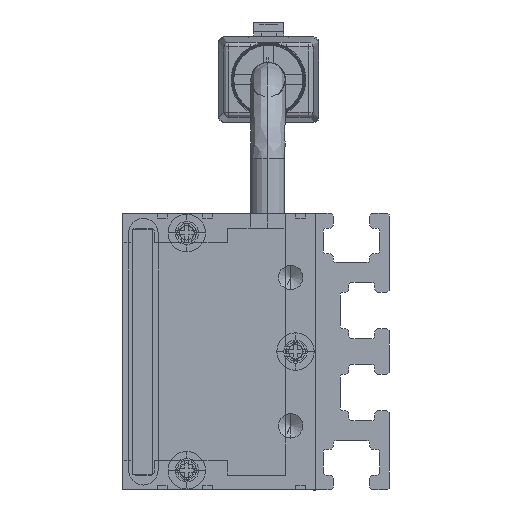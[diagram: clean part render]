
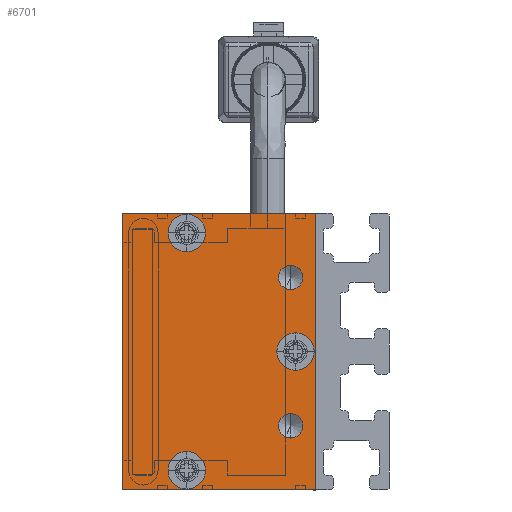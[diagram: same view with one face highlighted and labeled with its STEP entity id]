
A CAD part, left-side view. The second image highlights one B-rep face of the part: STEP entity #6701.
In plain terms, the highlighted planar face has unit normal (-1, 0, 0) as drawn and (0, 0, -1) by its records, which use the part's own axes.
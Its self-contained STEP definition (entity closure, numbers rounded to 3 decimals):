
#73 = EDGE_CURVE ( 'NONE', #7265, #3830, #9584, .T. ) ;
#92 = AXIS2_PLACEMENT_3D ( 'NONE', #843, #7435, #5180 ) ;
#105 = VERTEX_POINT ( 'NONE', #12009 ) ;
#285 = DIRECTION ( 'NONE',  ( -1., 0., 0. ) ) ;
#548 = AXIS2_PLACEMENT_3D ( 'NONE', #8443, #7297, #920 ) ;
#612 = DIRECTION ( 'NONE',  ( 0., 0., -1. ) ) ;
#682 = FACE_BOUND ( 'NONE', #2681, .T. ) ;
#800 = ORIENTED_EDGE ( 'NONE', *, *, #73, .F. ) ;
#843 = CARTESIAN_POINT ( 'NONE',  ( -12., 13., -2.5 ) ) ;
#920 = DIRECTION ( 'NONE',  ( -1., 0., 0. ) ) ;
#1002 = CIRCLE ( 'NONE', #92, 1.9 ) ;
#1113 = CARTESIAN_POINT ( 'NONE',  ( -13.9, 13., -2.5 ) ) ;
#1127 = AXIS2_PLACEMENT_3D ( 'NONE', #2511, #6847, #8723 ) ;
#1404 = CARTESIAN_POINT ( 'NONE',  ( 0., 2., -2.5 ) ) ;
#1422 = EDGE_CURVE ( 'NONE', #9254, #11643, #2491, .T. ) ;
#1659 = DIRECTION ( 'NONE',  ( -1., 0., 0. ) ) ;
#2166 = VECTOR ( 'NONE', #13160, 1000. ) ;
#2190 = VERTEX_POINT ( 'NONE', #7434 ) ;
#2272 = CARTESIAN_POINT ( 'NONE',  ( -14., 0., -2.5 ) ) ;
#2491 = LINE ( 'NONE', #5566, #5473 ) ;
#2511 = CARTESIAN_POINT ( 'NONE',  ( -7.5, 2.5, -2.5 ) ) ;
#2541 = DIRECTION ( 'NONE',  ( 0., 0., -1. ) ) ;
#2551 = VECTOR ( 'NONE', #8690, 1000. ) ;
#2624 = AXIS2_PLACEMENT_3D ( 'NONE', #12149, #12350, #4809 ) ;
#2681 = EDGE_LOOP ( 'NONE', ( #8274, #5687 ) ) ;
#2692 = EDGE_CURVE ( 'NONE', #7315, #105, #13905, .T. ) ;
#2890 = CARTESIAN_POINT ( 'NONE',  ( -14., 19.5, -2.5 ) ) ;
#3152 = DIRECTION ( 'NONE',  ( -1., 0., 0. ) ) ;
#3192 = EDGE_CURVE ( 'NONE', #11557, #9254, #6479, .T. ) ;
#3277 = EDGE_LOOP ( 'NONE', ( #10396, #6911 ) ) ;
#3329 = VERTEX_POINT ( 'NONE', #13643 ) ;
#3367 = CARTESIAN_POINT ( 'NONE',  ( -10.1, 13., -2.5 ) ) ;
#3604 = DIRECTION ( 'NONE',  ( 0., 0., -1. ) ) ;
#3723 = FACE_BOUND ( 'NONE', #11238, .T. ) ;
#3830 = VERTEX_POINT ( 'NONE', #1113 ) ;
#3834 = CIRCLE ( 'NONE', #1127, 1.25 ) ;
#3850 = EDGE_LOOP ( 'NONE', ( #10250, #9064, #9046, #12236 ) ) ;
#4102 = CARTESIAN_POINT ( 'NONE',  ( 1.9, 2., -2.5 ) ) ;
#4147 = CARTESIAN_POINT ( 'NONE',  ( -7.5, 2.5, -2.5 ) ) ;
#4436 = CIRCLE ( 'NONE', #4900, 1.9 ) ;
#4695 = CARTESIAN_POINT ( 'NONE',  ( -14., 19.5, -2.5 ) ) ;
#4703 = EDGE_LOOP ( 'NONE', ( #7051, #13197 ) ) ;
#4770 = EDGE_CURVE ( 'NONE', #7077, #11557, #7084, .T. ) ;
#4809 = DIRECTION ( 'NONE',  ( -1., 0., 0. ) ) ;
#4876 = EDGE_CURVE ( 'NONE', #6412, #3329, #7579, .T. ) ;
#4900 = AXIS2_PLACEMENT_3D ( 'NONE', #12297, #2541, #5756 ) ;
#4993 = ORIENTED_EDGE ( 'NONE', *, *, #12561, .F. ) ;
#5076 = CIRCLE ( 'NONE', #12343, 1.25 ) ;
#5180 = DIRECTION ( 'NONE',  ( -1., 0., 0. ) ) ;
#5295 = DIRECTION ( 'NONE',  ( 0., 0., -1. ) ) ;
#5473 = VECTOR ( 'NONE', #10976, 1000. ) ;
#5476 = CARTESIAN_POINT ( 'NONE',  ( 14., 0., -2.5 ) ) ;
#5566 = CARTESIAN_POINT ( 'NONE',  ( 14., 0., -2.5 ) ) ;
#5603 = ORIENTED_EDGE ( 'NONE', *, *, #8663, .F. ) ;
#5687 = ORIENTED_EDGE ( 'NONE', *, *, #7296, .F. ) ;
#5756 = DIRECTION ( 'NONE',  ( -1., 0., 0. ) ) ;
#5790 = PLANE ( 'NONE',  #6541 ) ;
#5956 = EDGE_CURVE ( 'NONE', #105, #7315, #12242, .T. ) ;
#5996 = FACE_BOUND ( 'NONE', #4703, .T. ) ;
#6025 = DIRECTION ( 'NONE',  ( -1., 0., 0. ) ) ;
#6294 = CARTESIAN_POINT ( 'NONE',  ( 12., 13., -2.5 ) ) ;
#6412 = VERTEX_POINT ( 'NONE', #11429 ) ;
#6479 = LINE ( 'NONE', #2272, #2551 ) ;
#6541 = AXIS2_PLACEMENT_3D ( 'NONE', #7055, #612, #1659 ) ;
#6699 = LINE ( 'NONE', #8843, #2166 ) ;
#6701 = ADVANCED_FACE ( 'NONE', ( #12471, #3723, #10421, #5996, #682, #12268 ), #5790, .T. ) ;
#6847 = DIRECTION ( 'NONE',  ( 0., 0., -1. ) ) ;
#6911 = ORIENTED_EDGE ( 'NONE', *, *, #2692, .F. ) ;
#7015 = CARTESIAN_POINT ( 'NONE',  ( 12., 13., -2.5 ) ) ;
#7051 = ORIENTED_EDGE ( 'NONE', *, *, #12079, .F. ) ;
#7055 = CARTESIAN_POINT ( 'NONE',  ( 0., 0., -2.5 ) ) ;
#7077 = VERTEX_POINT ( 'NONE', #8510 ) ;
#7084 = LINE ( 'NONE', #2890, #12788 ) ;
#7265 = VERTEX_POINT ( 'NONE', #3367 ) ;
#7296 = EDGE_CURVE ( 'NONE', #2190, #8960, #3834, .T. ) ;
#7297 = DIRECTION ( 'NONE',  ( 0., 0., -1. ) ) ;
#7315 = VERTEX_POINT ( 'NONE', #11997 ) ;
#7434 = CARTESIAN_POINT ( 'NONE',  ( -6.25, 2.5, -2.5 ) ) ;
#7435 = DIRECTION ( 'NONE',  ( 0., 0., -1. ) ) ;
#7579 = CIRCLE ( 'NONE', #548, 1.25 ) ;
#7764 = DIRECTION ( 'NONE',  ( 0., 0., -1. ) ) ;
#7775 = AXIS2_PLACEMENT_3D ( 'NONE', #6294, #5295, #3152 ) ;
#7837 = DIRECTION ( 'NONE',  ( -1., 0., 0. ) ) ;
#8274 = ORIENTED_EDGE ( 'NONE', *, *, #9594, .F. ) ;
#8443 = CARTESIAN_POINT ( 'NONE',  ( 7.5, 2.5, -2.5 ) ) ;
#8510 = CARTESIAN_POINT ( 'NONE',  ( 14., 19.5, -2.5 ) ) ;
#8663 = EDGE_CURVE ( 'NONE', #3830, #7265, #1002, .T. ) ;
#8690 = DIRECTION ( 'NONE',  ( 0., -1., 0. ) ) ;
#8723 = DIRECTION ( 'NONE',  ( -1., 0., 0. ) ) ;
#8843 = CARTESIAN_POINT ( 'NONE',  ( 14., 19.5, -2.5 ) ) ;
#8895 = EDGE_LOOP ( 'NONE', ( #10692, #4993 ) ) ;
#8960 = VERTEX_POINT ( 'NONE', #9071 ) ;
#8968 = VERTEX_POINT ( 'NONE', #4102 ) ;
#9046 = ORIENTED_EDGE ( 'NONE', *, *, #3192, .F. ) ;
#9064 = ORIENTED_EDGE ( 'NONE', *, *, #1422, .F. ) ;
#9071 = CARTESIAN_POINT ( 'NONE',  ( -8.75, 2.5, -2.5 ) ) ;
#9254 = VERTEX_POINT ( 'NONE', #12139 ) ;
#9584 = CIRCLE ( 'NONE', #12511, 1.9 ) ;
#9594 = EDGE_CURVE ( 'NONE', #8960, #2190, #5076, .T. ) ;
#9601 = DIRECTION ( 'NONE',  ( -1., 0., 0. ) ) ;
#10250 = ORIENTED_EDGE ( 'NONE', *, *, #11216, .F. ) ;
#10396 = ORIENTED_EDGE ( 'NONE', *, *, #5956, .F. ) ;
#10421 = FACE_BOUND ( 'NONE', #8895, .T. ) ;
#10692 = ORIENTED_EDGE ( 'NONE', *, *, #10933, .F. ) ;
#10805 = CARTESIAN_POINT ( 'NONE',  ( -12., 13., -2.5 ) ) ;
#10836 = AXIS2_PLACEMENT_3D ( 'NONE', #7015, #13479, #6025 ) ;
#10933 = EDGE_CURVE ( 'NONE', #11815, #8968, #12153, .T. ) ;
#10976 = DIRECTION ( 'NONE',  ( 1., 0., 0. ) ) ;
#11043 = CIRCLE ( 'NONE', #2624, 1.25 ) ;
#11216 = EDGE_CURVE ( 'NONE', #11643, #7077, #6699, .T. ) ;
#11238 = EDGE_LOOP ( 'NONE', ( #5603, #800 ) ) ;
#11251 = AXIS2_PLACEMENT_3D ( 'NONE', #1404, #3604, #285 ) ;
#11429 = CARTESIAN_POINT ( 'NONE',  ( 8.75, 2.5, -2.5 ) ) ;
#11557 = VERTEX_POINT ( 'NONE', #4695 ) ;
#11643 = VERTEX_POINT ( 'NONE', #5476 ) ;
#11815 = VERTEX_POINT ( 'NONE', #13715 ) ;
#11997 = CARTESIAN_POINT ( 'NONE',  ( 13.9, 13., -2.5 ) ) ;
#12009 = CARTESIAN_POINT ( 'NONE',  ( 10.1, 13., -2.5 ) ) ;
#12079 = EDGE_CURVE ( 'NONE', #3329, #6412, #11043, .T. ) ;
#12139 = CARTESIAN_POINT ( 'NONE',  ( -14., 0., -2.5 ) ) ;
#12149 = CARTESIAN_POINT ( 'NONE',  ( 7.5, 2.5, -2.5 ) ) ;
#12153 = CIRCLE ( 'NONE', #11251, 1.9 ) ;
#12236 = ORIENTED_EDGE ( 'NONE', *, *, #4770, .F. ) ;
#12242 = CIRCLE ( 'NONE', #10836, 1.9 ) ;
#12268 = FACE_OUTER_BOUND ( 'NONE', #3850, .T. ) ;
#12297 = CARTESIAN_POINT ( 'NONE',  ( 0., 2., -2.5 ) ) ;
#12343 = AXIS2_PLACEMENT_3D ( 'NONE', #4147, #7764, #7837 ) ;
#12350 = DIRECTION ( 'NONE',  ( 0., 0., -1. ) ) ;
#12471 = FACE_BOUND ( 'NONE', #3277, .T. ) ;
#12511 = AXIS2_PLACEMENT_3D ( 'NONE', #10805, #13057, #9601 ) ;
#12561 = EDGE_CURVE ( 'NONE', #8968, #11815, #4436, .T. ) ;
#12788 = VECTOR ( 'NONE', #13394, 1000. ) ;
#13057 = DIRECTION ( 'NONE',  ( 0., 0., -1. ) ) ;
#13160 = DIRECTION ( 'NONE',  ( 0., 1., 0. ) ) ;
#13197 = ORIENTED_EDGE ( 'NONE', *, *, #4876, .F. ) ;
#13394 = DIRECTION ( 'NONE',  ( -1., 0., 0. ) ) ;
#13479 = DIRECTION ( 'NONE',  ( 0., 0., -1. ) ) ;
#13643 = CARTESIAN_POINT ( 'NONE',  ( 6.25, 2.5, -2.5 ) ) ;
#13715 = CARTESIAN_POINT ( 'NONE',  ( -1.9, 2., -2.5 ) ) ;
#13905 = CIRCLE ( 'NONE', #7775, 1.9 ) ;
